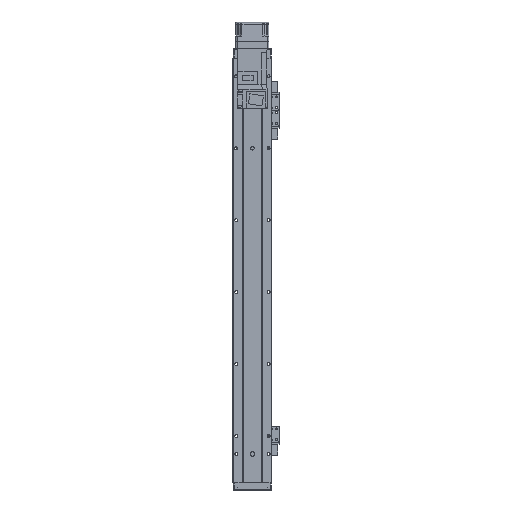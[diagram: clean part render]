
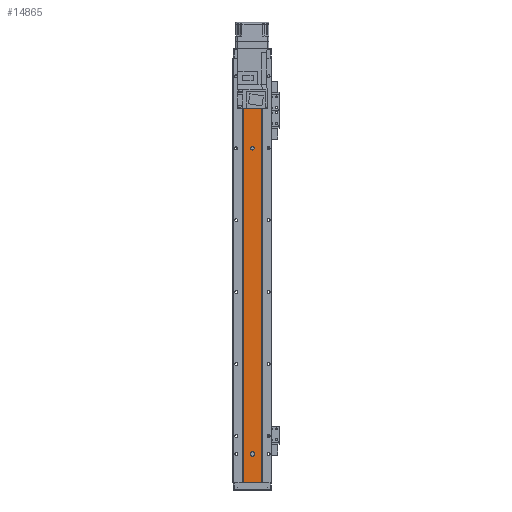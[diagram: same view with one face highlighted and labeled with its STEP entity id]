
A CAD part, front view. The second image highlights one B-rep face of the part: STEP entity #14865.
In plain terms, the highlighted planar face has unit normal (0, -1, 0).
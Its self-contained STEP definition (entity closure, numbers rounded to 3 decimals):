
#1633 = DIRECTION ( 'NONE',  ( 0., -1., 0. ) ) ;
#1749 = CARTESIAN_POINT ( 'NONE',  ( -2.5, 1.5, -25. ) ) ;
#1944 = EDGE_LOOP ( 'NONE', ( #10231, #8601, #28791, #36315 ) ) ;
#2568 = ORIENTED_EDGE ( 'NONE', *, *, #17016, .F. ) ;
#4053 = DIRECTION ( 'NONE',  ( 0., 0., 1. ) ) ;
#4743 = VERTEX_POINT ( 'NONE', #18003 ) ;
#4973 = EDGE_CURVE ( 'NONE', #18793, #27163, #29304, .T. ) ;
#5639 = DIRECTION ( 'NONE',  ( 1., 0., 0. ) ) ;
#5853 = CIRCLE ( 'NONE', #29742, 2.5 ) ;
#7458 = AXIS2_PLACEMENT_3D ( 'NONE', #34697, #16776, #37922 ) ;
#7905 = CARTESIAN_POINT ( 'NONE',  ( 12.293, 1.5, -590. ) ) ;
#7984 = VECTOR ( 'NONE', #8545, 1000. ) ;
#8121 = EDGE_CURVE ( 'NONE', #19886, #34637, #24896, .T. ) ;
#8184 = EDGE_CURVE ( 'NONE', #9986, #38255, #33327, .T. ) ;
#8231 = CARTESIAN_POINT ( 'NONE',  ( 2.5, 1.5, -549. ) ) ;
#8340 = DIRECTION ( 'NONE',  ( 0., -1., 0. ) ) ;
#8545 = DIRECTION ( 'NONE',  ( 1., 0., 0. ) ) ;
#8601 = ORIENTED_EDGE ( 'NONE', *, *, #16687, .F. ) ;
#8651 = DIRECTION ( 'NONE',  ( 0., -1., 0. ) ) ;
#8710 = ORIENTED_EDGE ( 'NONE', *, *, #33009, .F. ) ;
#9121 = CARTESIAN_POINT ( 'NONE',  ( 2.5, 1.5, -551. ) ) ;
#9330 = EDGE_CURVE ( 'NONE', #23237, #26586, #18159, .T. ) ;
#9986 = VERTEX_POINT ( 'NONE', #13784 ) ;
#10231 = ORIENTED_EDGE ( 'NONE', *, *, #8184, .F. ) ;
#10254 = CARTESIAN_POINT ( 'NONE',  ( -2.5, 1.5, -549. ) ) ;
#11224 = DIRECTION ( 'NONE',  ( 0., 0., -1. ) ) ;
#11225 = CARTESIAN_POINT ( 'NONE',  ( 12.293, 1.5, -590. ) ) ;
#13583 = ORIENTED_EDGE ( 'NONE', *, *, #37532, .F. ) ;
#13779 = CARTESIAN_POINT ( 'NONE',  ( -12.293, 1.5, -590. ) ) ;
#13784 = CARTESIAN_POINT ( 'NONE',  ( -12.293, 1.5, 0. ) ) ;
#14044 = VECTOR ( 'NONE', #4053, 1000. ) ;
#14245 = DIRECTION ( 'NONE',  ( 1., 0., 0. ) ) ;
#14865 = ADVANCED_FACE ( 'NONE', ( #35639, #25304, #30021, #21623 ), #26444, .T. ) ;
#15170 = CARTESIAN_POINT ( 'NONE',  ( 2.5, 1.5, -25. ) ) ;
#15827 = ORIENTED_EDGE ( 'NONE', *, *, #9330, .F. ) ;
#15992 = EDGE_CURVE ( 'NONE', #19713, #4743, #27265, .T. ) ;
#16013 = DIRECTION ( 'NONE',  ( 0., -1., 0. ) ) ;
#16117 = CARTESIAN_POINT ( 'NONE',  ( 12.293, 1.5, 0. ) ) ;
#16335 = EDGE_CURVE ( 'NONE', #27163, #28081, #33304, .T. ) ;
#16487 = CARTESIAN_POINT ( 'NONE',  ( -12.293, 1.5, -590. ) ) ;
#16687 = EDGE_CURVE ( 'NONE', #19886, #9986, #37492, .T. ) ;
#16776 = DIRECTION ( 'NONE',  ( 0., -1., 0. ) ) ;
#16856 = DIRECTION ( 'NONE',  ( 1., 0., 0. ) ) ;
#16886 = VECTOR ( 'NONE', #17375, 1000. ) ;
#17016 = EDGE_CURVE ( 'NONE', #27750, #18793, #32797, .T. ) ;
#17375 = DIRECTION ( 'NONE',  ( 0., 0., 1. ) ) ;
#18003 = CARTESIAN_POINT ( 'NONE',  ( -2.5, 1.5, -125. ) ) ;
#18159 = CIRCLE ( 'NONE', #7458, 2.5 ) ;
#18793 = VERTEX_POINT ( 'NONE', #8231 ) ;
#19009 = DIRECTION ( 'NONE',  ( 0., 0., 1. ) ) ;
#19512 = EDGE_LOOP ( 'NONE', ( #35855, #22768 ) ) ;
#19713 = VERTEX_POINT ( 'NONE', #27859 ) ;
#19886 = VERTEX_POINT ( 'NONE', #13779 ) ;
#20238 = VECTOR ( 'NONE', #16856, 1000. ) ;
#21623 = FACE_OUTER_BOUND ( 'NONE', #1944, .T. ) ;
#21638 = LINE ( 'NONE', #31555, #14044 ) ;
#21802 = AXIS2_PLACEMENT_3D ( 'NONE', #28521, #1633, #34919 ) ;
#22187 = CIRCLE ( 'NONE', #21802, 2.5 ) ;
#22313 = DIRECTION ( 'NONE',  ( 1., 0., 0. ) ) ;
#22768 = ORIENTED_EDGE ( 'NONE', *, *, #37118, .F. ) ;
#23237 = VERTEX_POINT ( 'NONE', #15170 ) ;
#23272 = CARTESIAN_POINT ( 'NONE',  ( 12.293, 1.5, 0. ) ) ;
#24243 = ORIENTED_EDGE ( 'NONE', *, *, #16335, .F. ) ;
#24549 = ORIENTED_EDGE ( 'NONE', *, *, #4973, .F. ) ;
#24896 = LINE ( 'NONE', #7905, #20238 ) ;
#25160 = CARTESIAN_POINT ( 'NONE',  ( 0., 1.5, -549. ) ) ;
#25304 = FACE_BOUND ( 'NONE', #19512, .T. ) ;
#25861 = EDGE_LOOP ( 'NONE', ( #13583, #24243, #24549, #2568 ) ) ;
#25862 = CARTESIAN_POINT ( 'NONE',  ( 12.293, 1.5, -590. ) ) ;
#26059 = AXIS2_PLACEMENT_3D ( 'NONE', #25160, #30550, #31050 ) ;
#26444 = PLANE ( 'NONE',  #27808 ) ;
#26586 = VERTEX_POINT ( 'NONE', #1749 ) ;
#27009 = CIRCLE ( 'NONE', #28477, 2.5 ) ;
#27163 = VERTEX_POINT ( 'NONE', #10254 ) ;
#27265 = CIRCLE ( 'NONE', #36321, 2.5 ) ;
#27587 = CARTESIAN_POINT ( 'NONE',  ( 0., 1.5, -125. ) ) ;
#27750 = VERTEX_POINT ( 'NONE', #9121 ) ;
#27808 = AXIS2_PLACEMENT_3D ( 'NONE', #11225, #8340, #14245 ) ;
#27859 = CARTESIAN_POINT ( 'NONE',  ( 2.5, 1.5, -125. ) ) ;
#28081 = VERTEX_POINT ( 'NONE', #34911 ) ;
#28477 = AXIS2_PLACEMENT_3D ( 'NONE', #27587, #30349, #30739 ) ;
#28521 = CARTESIAN_POINT ( 'NONE',  ( 0., 1.5, -25. ) ) ;
#28791 = ORIENTED_EDGE ( 'NONE', *, *, #8121, .T. ) ;
#29304 = CIRCLE ( 'NONE', #26059, 2.5 ) ;
#29503 = CARTESIAN_POINT ( 'NONE',  ( 0., 1.5, -551. ) ) ;
#29742 = AXIS2_PLACEMENT_3D ( 'NONE', #29503, #8651, #5639 ) ;
#30021 = FACE_BOUND ( 'NONE', #36537, .T. ) ;
#30349 = DIRECTION ( 'NONE',  ( 0., -1., 0. ) ) ;
#30550 = DIRECTION ( 'NONE',  ( 0., -1., 0. ) ) ;
#30739 = DIRECTION ( 'NONE',  ( 1., 0., 0. ) ) ;
#31050 = DIRECTION ( 'NONE',  ( 1., 0., 0. ) ) ;
#31555 = CARTESIAN_POINT ( 'NONE',  ( 12.293, 1.5, -590. ) ) ;
#31896 = VECTOR ( 'NONE', #11224, 1000. ) ;
#32077 = CARTESIAN_POINT ( 'NONE',  ( -2.5, 1.5, -590. ) ) ;
#32797 = LINE ( 'NONE', #35322, #16886 ) ;
#33009 = EDGE_CURVE ( 'NONE', #26586, #23237, #22187, .T. ) ;
#33304 = LINE ( 'NONE', #32077, #31896 ) ;
#33327 = LINE ( 'NONE', #23272, #7984 ) ;
#33746 = EDGE_CURVE ( 'NONE', #34637, #38255, #21638, .T. ) ;
#34637 = VERTEX_POINT ( 'NONE', #25862 ) ;
#34697 = CARTESIAN_POINT ( 'NONE',  ( 0., 1.5, -25. ) ) ;
#34911 = CARTESIAN_POINT ( 'NONE',  ( -2.5, 1.5, -551. ) ) ;
#34919 = DIRECTION ( 'NONE',  ( 1., 0., 0. ) ) ;
#35322 = CARTESIAN_POINT ( 'NONE',  ( 2.5, 1.5, -590. ) ) ;
#35639 = FACE_BOUND ( 'NONE', #25861, .T. ) ;
#35855 = ORIENTED_EDGE ( 'NONE', *, *, #15992, .F. ) ;
#36315 = ORIENTED_EDGE ( 'NONE', *, *, #33746, .T. ) ;
#36321 = AXIS2_PLACEMENT_3D ( 'NONE', #37070, #16013, #22313 ) ;
#36537 = EDGE_LOOP ( 'NONE', ( #15827, #8710 ) ) ;
#37070 = CARTESIAN_POINT ( 'NONE',  ( 0., 1.5, -125. ) ) ;
#37118 = EDGE_CURVE ( 'NONE', #4743, #19713, #27009, .T. ) ;
#37492 = LINE ( 'NONE', #16487, #38352 ) ;
#37532 = EDGE_CURVE ( 'NONE', #28081, #27750, #5853, .T. ) ;
#37922 = DIRECTION ( 'NONE',  ( 1., 0., 0. ) ) ;
#38255 = VERTEX_POINT ( 'NONE', #16117 ) ;
#38352 = VECTOR ( 'NONE', #19009, 1000. ) ;
